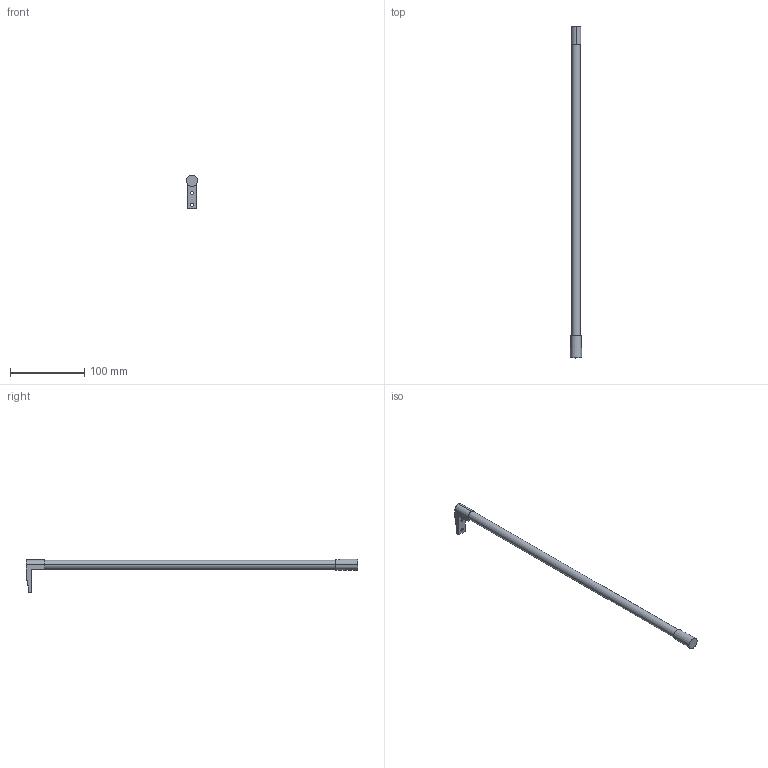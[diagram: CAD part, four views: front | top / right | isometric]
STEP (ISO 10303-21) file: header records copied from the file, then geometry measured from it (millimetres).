
FILE_DESCRIPTION (( 'STEP AP214' ), '1' );
FILE_NAME ('IMOS_Anschraubreling_Set_NL450.step', '2010-10-07T16:15:22', ( 'Grass' ), ( '' ), 'SwSTEP 2.0', 'SolidWorks 2010', '' );
FILE_SCHEMA (( 'AUTOMOTIVE_DESIGN' ));
Length unit declared in the file: millimetre
Products named in the file (1): IMOS_Anschraubreling_Set_NL450
Bounding box: 15.5 x 446.9 x 45.75 mm (x, y, z)
Volume: 55404.1 mm3; surface area: 19036.6 mm2
Topology: 1 solids, 1 shells, 24 faces, 57 edges, 38 vertices
Faces by surface type: plane 12, cylinder 10, cone 2
Entity records: 745 total; most frequent: DIRECTION 127, CARTESIAN_POINT 126, ORIENTED_EDGE 114, EDGE_CURVE 57, AXIS2_PLACEMENT_3D 47, VERTEX_POINT 38, LINE 33, VECTOR 33
